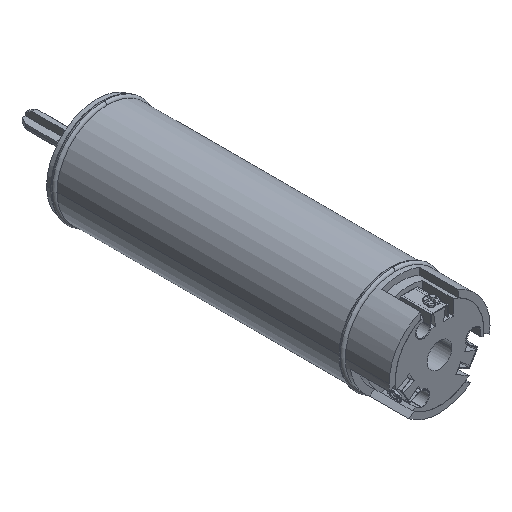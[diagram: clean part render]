
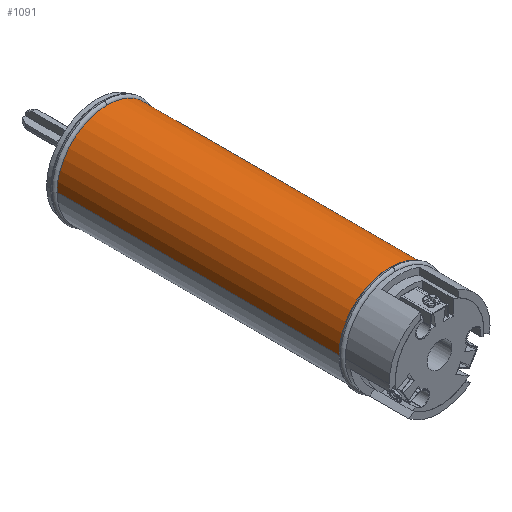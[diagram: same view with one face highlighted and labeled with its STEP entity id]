
A CAD part, isometric view. The second image highlights one B-rep face of the part: STEP entity #1091.
In plain terms, the highlighted cylindrical face has radius 8 mm (diameter 16 mm), a partial arc.
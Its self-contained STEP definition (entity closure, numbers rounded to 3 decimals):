
#144=DIRECTION('',(0.,-1.,0.));
#145=VECTOR('',#144,44.7);
#146=CARTESIAN_POINT('',(8.,-1.65,0.));
#147=LINE('',#146,#145);
#220=CARTESIAN_POINT('',(0.,-1.65,0.));
#221=DIRECTION('',(0.,1.,0.));
#222=DIRECTION('',(-1.,0.,0.));
#223=AXIS2_PLACEMENT_3D('',#220,#221,#222);
#225=CARTESIAN_POINT('',(0.,-46.35,0.));
#226=DIRECTION('',(0.,1.,0.));
#227=DIRECTION('',(-1.,0.,0.));
#228=AXIS2_PLACEMENT_3D('',#225,#226,#227);
#230=DIRECTION('',(0.,-1.,0.));
#231=VECTOR('',#230,44.7);
#232=CARTESIAN_POINT('',(-8.,-1.65,0.));
#233=LINE('',#232,#231);
#862=CARTESIAN_POINT('',(8.,-1.65,0.));
#863=CARTESIAN_POINT('',(-8.,-1.65,0.));
#864=VERTEX_POINT('',#862);
#865=VERTEX_POINT('',#863);
#870=CARTESIAN_POINT('',(8.,-46.35,0.));
#871=VERTEX_POINT('',#870);
#872=CARTESIAN_POINT('',(-8.,-46.35,0.));
#873=VERTEX_POINT('',#872);
#1079=CARTESIAN_POINT('',(0.,0.,0.));
#1080=DIRECTION('',(0.,1.,0.));
#1081=DIRECTION('',(1.,0.,0.));
#1082=AXIS2_PLACEMENT_3D('',#1079,#1080,#1081);
#1083=CYLINDRICAL_SURFACE('',#1082,8.);
#1084=ORIENTED_EDGE('',*,*,#1025,.T.);
#1085=ORIENTED_EDGE('',*,*,#967,.T.);
#1087=ORIENTED_EDGE('',*,*,#1086,.F.);
#1088=ORIENTED_EDGE('',*,*,#963,.F.);
#1089=EDGE_LOOP('',(#1084,#1085,#1087,#1088));
#1090=FACE_OUTER_BOUND('',#1089,.F.);
#1091=ADVANCED_FACE('',(#1090),#1083,.T.);
#224=CIRCLE('',#223,8.);
#229=CIRCLE('',#228,8.);
#963=EDGE_CURVE('',#865,#873,#233,.T.);
#967=EDGE_CURVE('',#864,#871,#147,.T.);
#1025=EDGE_CURVE('',#865,#864,#224,.T.);
#1086=EDGE_CURVE('',#873,#871,#229,.T.);
